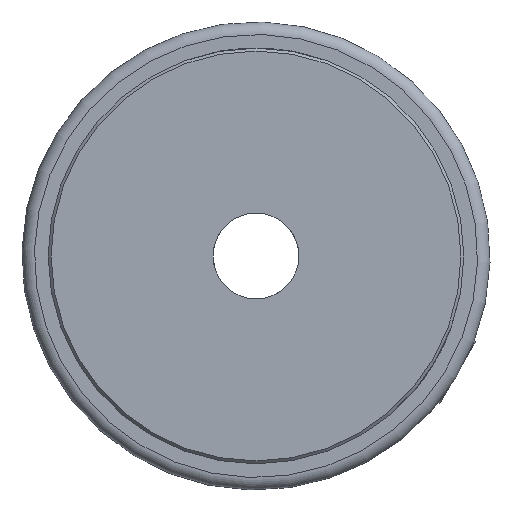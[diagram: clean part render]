
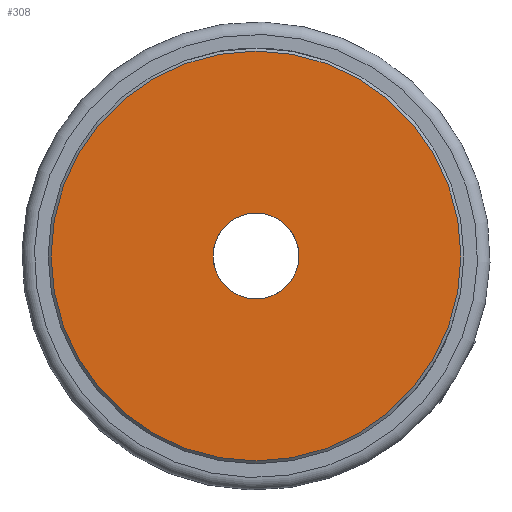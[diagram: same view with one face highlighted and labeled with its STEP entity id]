
A CAD part, left-side view. The second image highlights one B-rep face of the part: STEP entity #308.
In plain terms, the highlighted planar face has unit normal (-1, 0, 0).
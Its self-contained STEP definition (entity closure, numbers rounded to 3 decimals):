
#308 = ADVANCED_FACE( 'NONE', ( #664, #665 ), #666, .F. );
#664 = FACE_OUTER_BOUND( '', #1190, .T. );
#665 = FACE_BOUND( '', #1191, .T. );
#666 = PLANE( '', #1192 );
#1190 = EDGE_LOOP( '', ( #1778 ) );
#1191 = EDGE_LOOP( '', ( #1779 ) );
#1192 = AXIS2_PLACEMENT_3D( '', #1780, #1781, #1782 );
#1778 = ORIENTED_EDGE( '', *, *, #2811, .T. );
#1779 = ORIENTED_EDGE( '', *, *, #2812, .F. );
#1780 = CARTESIAN_POINT( '', ( 0., 3., 0. ) );
#1781 = DIRECTION( '', ( 1., 0., 0. ) );
#1782 = DIRECTION( '', ( 0., 1., 0. ) );
#2811 = EDGE_CURVE( 'NONE', #3280, #3280, #3281, .T. );
#2812 = EDGE_CURVE( 'NONE', #3282, #3282, #3283, .T. );
#3280 = VERTEX_POINT( '', #3869 );
#3281 = CIRCLE( '', #3870, 14.3 );
#3282 = VERTEX_POINT( '', #3871 );
#3283 = CIRCLE( '', #3872, 3. );
#3869 = CARTESIAN_POINT( '', ( 0., 0., -14.3 ) );
#3870 = AXIS2_PLACEMENT_3D( '', #5017, #5018, #5019 );
#3871 = CARTESIAN_POINT( '', ( 0., 0., 3. ) );
#3872 = AXIS2_PLACEMENT_3D( '', #5020, #5021, #5022 );
#5017 = CARTESIAN_POINT( '', ( 0., 0., 0. ) );
#5018 = DIRECTION( '', ( -1., 0., 0. ) );
#5019 = DIRECTION( '', ( 0., 0., -1. ) );
#5020 = CARTESIAN_POINT( '', ( 0., 0., 0. ) );
#5021 = DIRECTION( '', ( -1., 0., 0. ) );
#5022 = DIRECTION( '', ( 0., 0., 1. ) );
